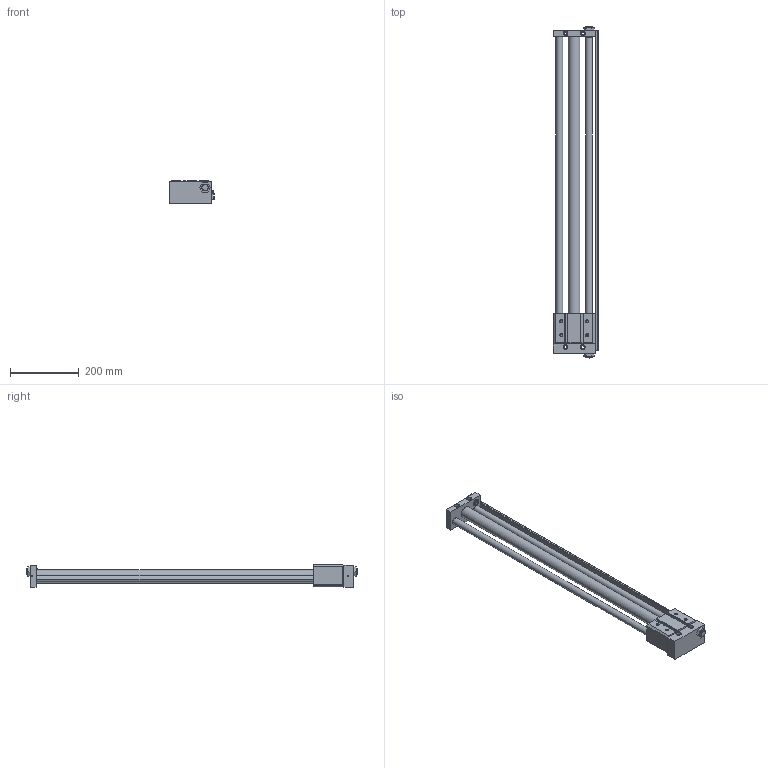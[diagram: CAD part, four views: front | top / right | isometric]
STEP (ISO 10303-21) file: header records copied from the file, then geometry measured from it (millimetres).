
FILE_DESCRIPTION((''),'2;1');
FILE_NAME('C:\Documents and Settings\Administrator\桌面\GYS\GYS32\GYSR32X800.stp','2012-03-06T20:16:52',('Administrator'),(''),'Autodesk Inventor 8','Autodesk Inventor 8','');
FILE_SCHEMA(('AUTOMOTIVE_DESIGN { 1 0 10303 214 1 1 1 1 }'));
Length unit declared in the file: millimetre
Products named in the file (3): GYSR32X800; GYS32X800; GYS32160X800
Assembly tree (2 placements, depth 2):
  GYSR32X800
    GYS32X800
    GYS32160X800
Bounding box: 132.5 x 963 x 66 mm (x, y, z)
Volume: 2326053.9 mm3; surface area: 397581.9 mm2
Topology: 2 solids, 2 shells, 291 faces, 770 edges, 504 vertices
Faces by surface type: plane 161, cylinder 96, cone 28, bspline 6
Entity records: 9200 total; most frequent: CARTESIAN_POINT 1644, DIRECTION 1598, ORIENTED_EDGE 1540, EDGE_CURVE 770, AXIS2_PLACEMENT_3D 538, VECTOR 522, LINE 522, VERTEX_POINT 504
